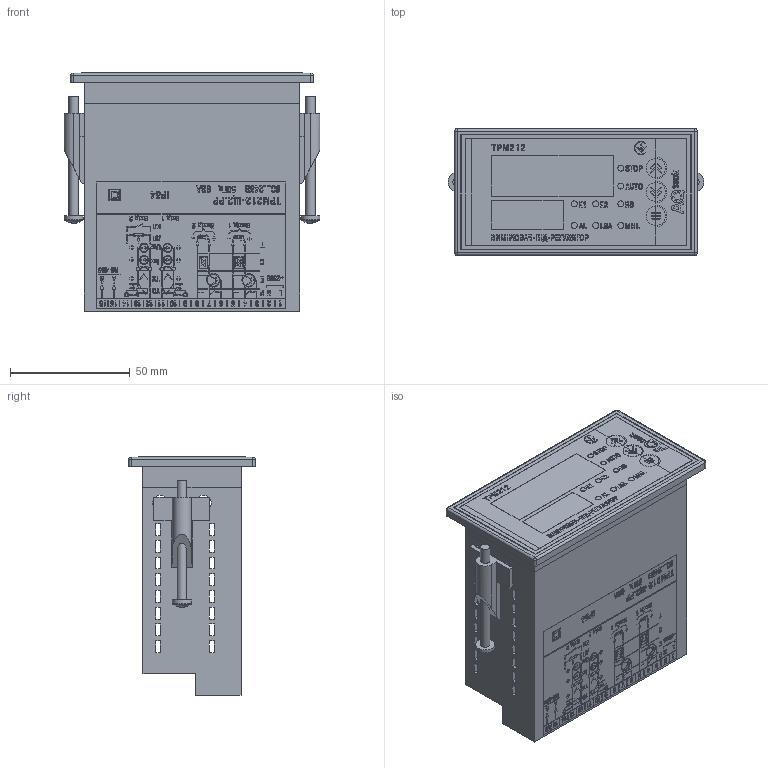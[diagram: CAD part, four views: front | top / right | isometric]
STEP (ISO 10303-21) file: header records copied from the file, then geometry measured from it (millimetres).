
FILE_DESCRIPTION (( 'STEP AP214' ), '1' );
FILE_NAME ('ﾒﾐﾌ212-ﾙ2.ﾐﾐ [U03].STEP', '2025-02-27T11:32:44', ( '' ), ( '' ), 'SwSTEP 2.0', 'SolidWorks 2019', '' );
FILE_SCHEMA (( 'AUTOMOTIVE_DESIGN' ));
Length unit declared in the file: millimetre
Products named in the file (9): M4 x 0.7 x 40 Type I Cross Recessed PHMS; 2EDGKR-5.08-1p; Êîðïóñ ÒÐÌ212-Ù2.ÐÐ [U03]; Êð³ïëåííÿ ï³ä âèíò Ì4; 2EDGKR-5.08-16; AQ_TRM212_002F01M; óù³ëüíþâà÷ (Ù2); BoardsPCBﾒﾐﾌ500_ﾙ2; ﾒﾐﾌ212-ﾙ2.ﾐﾐ [U03]
Assembly tree (25 placements, depth 3):
  ﾒﾐﾌ212-ﾙ2.ﾐﾐ [U03]
    2EDGKR-5.08-16
      2EDGKR-5.08-1p  x16
    óù³ëüíþâà÷ (Ù2)
    Êîðïóñ ÒÐÌ212-Ù2.ÐÐ [U03]
    Êð³ïëåííÿ ï³ä âèíò Ì4  x2
    M4 x 0.7 x 40 Type I Cross Recessed PHMS  x2
    AQ_TRM212_002F01M
    BoardsPCBﾒﾐﾌ500_ﾙ2
Bounding box: 107 x 53 x 99.63 mm (x, y, z)
Volume: 93971.6 mm3; surface area: 128473.6 mm2
Topology: 278 solids, 278 shells, 5560 faces, 14811 edges, 9826 vertices
Faces by surface type: plane 3929, bspline 1323, cylinder 300, sphere 6, torus 2
Full cylindrical faces by diameter (mm): 1.274 x2, 2.5 x16, 3.268 x4, 4 x2, 8 x5
Entity records: 202788 total; most frequent: CARTESIAN_POINT 43718, ORIENTED_EDGE 25826, DIRECTION 17604, EDGE_CURVE 12913, VECTOR 9974, LINE 9974, VERTEX_POINT 8617, EDGE_LOOP 5402
